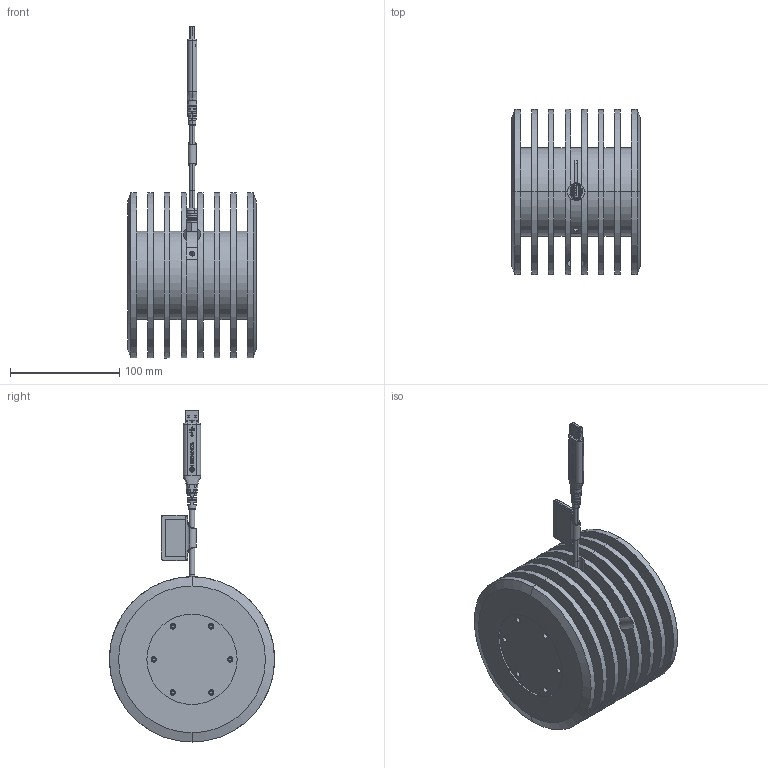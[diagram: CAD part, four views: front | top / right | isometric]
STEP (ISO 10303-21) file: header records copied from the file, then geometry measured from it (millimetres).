
FILE_DESCRIPTION (( 'STEP AP214' ), '1' );
FILE_NAME ('1223336.STEP', '2013-06-03T18:05:03', ( 'coherent' ), ( '' ), 'SwSTEP 2.0', 'SolidWorks 2012', '' );
FILE_SCHEMA (( 'AUTOMOTIVE_DESIGN' ));
Length unit declared in the file: inch
Products named in the file (1): 1223336
Bounding box: 117.75 x 151.13 x 303.68 mm (x, y, z)
Volume: 847537.6 mm3; surface area: 317654.7 mm2
Topology: 19 solids, 20 shells, 2253 faces, 6145 edges, 3994 vertices
Faces by surface type: cylinder 1205, plane 711, cone 236, bspline 57, torus 44
Entity records: 140471 total; most frequent: CARTESIAN_POINT 58180, ORIENTED_EDGE 12262, DIRECTION 9918, EDGE_CURVE 6131, VERTEX_POINT 3994, AXIS2_PLACEMENT_3D 3436, LINE 3046, VECTOR 3046
